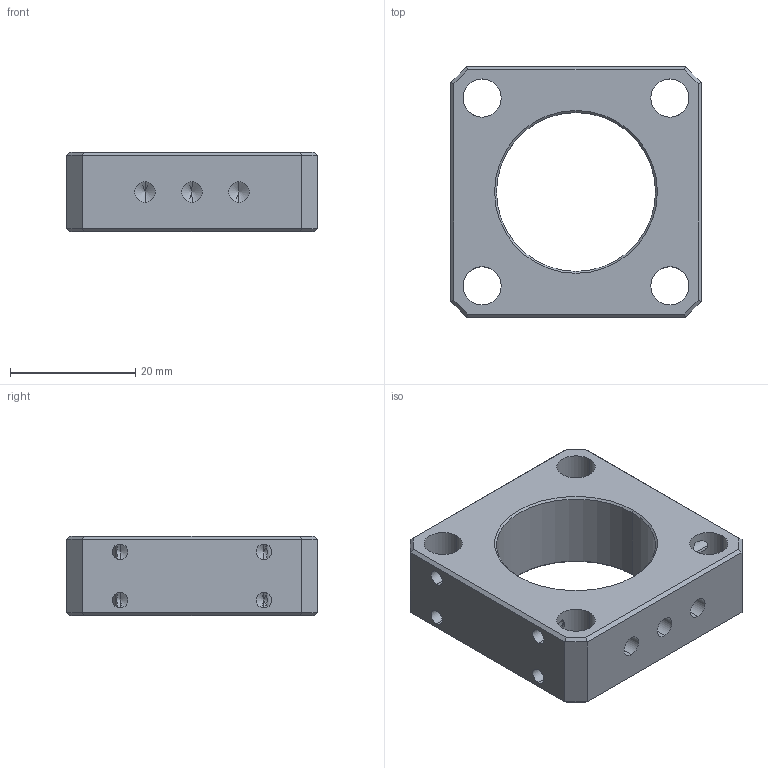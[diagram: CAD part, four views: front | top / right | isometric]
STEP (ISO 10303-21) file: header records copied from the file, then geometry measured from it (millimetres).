
FILE_DESCRIPTION (( 'STEP AP203' ), '1' );
FILE_NAME ('CM-26A03.STEP', '2021-10-13T09:32:17', ( '' ), ( '' ), 'SwSTEP 2.0', 'SolidWorks 2019', '' );
FILE_SCHEMA (( 'CONFIG_CONTROL_DESIGN' ));
Length unit declared in the file: millimetre
Products named in the file (1): CM-26A03
Bounding box: 40 x 40 x 12.7 mm (x, y, z)
Volume: 11629.3 mm3; surface area: 6309.9 mm2
Topology: 1 solids, 1 shells, 96 faces, 258 edges, 142 vertices
Faces by surface type: cylinder 38, cone 32, plane 26
Entity records: 3155 total; most frequent: CARTESIAN_POINT 757, DIRECTION 496, ORIENTED_EDGE 460, EDGE_CURVE 230, AXIS2_PLACEMENT_3D 185, VERTEX_POINT 142, EDGE_LOOP 128, LINE 126
